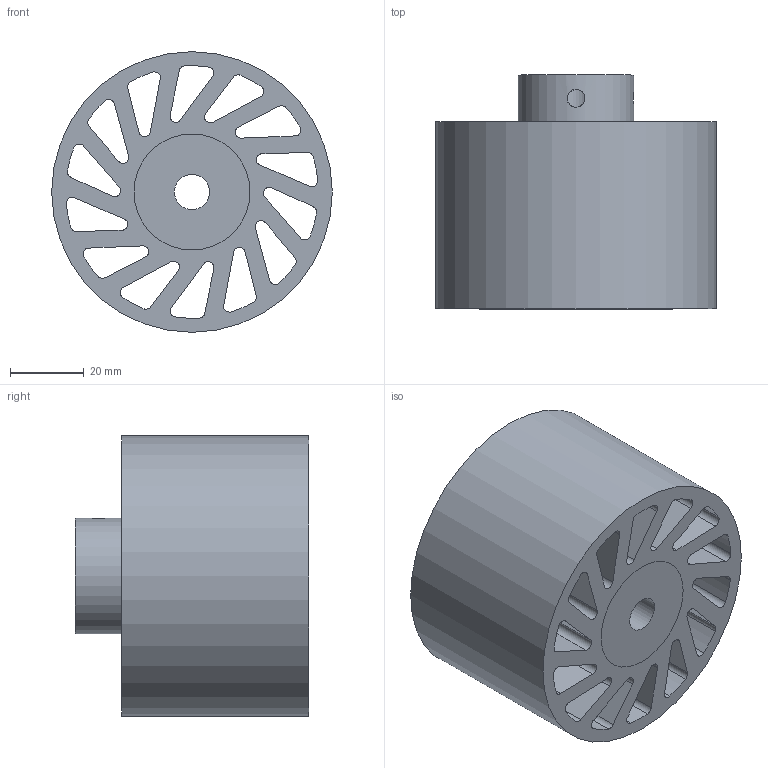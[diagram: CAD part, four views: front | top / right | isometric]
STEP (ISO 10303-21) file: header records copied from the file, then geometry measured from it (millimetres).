
FILE_DESCRIPTION(/* description */ (''),/* implementation_level */ '2;1');
FILE_NAME(/* name */ 'NCW-700-DUR-CLR.stp',/* time_stamp */ '2023-02-01T16:39:59-06:00',/* author */ ('AG'),/* organization */ ('Meridian Laboratory'),/* preprocessor_version */ 'ST-DEVELOPER v18.1',/* originating_system */ 'Autodesk Inventor 2022',/* authorisation */ '');
FILE_SCHEMA (('AUTOMOTIVE_DESIGN { 1 0 10303 214 3 1 1 }'));
Length unit declared in the file: inch
Products named in the file (1): NCW-640-DUR-CLR
Bounding box: 76.2 x 63.5 x 76.2 mm (x, y, z)
Volume: 165947.8 mm3; surface area: 62585.4 mm2
Topology: 2 solids, 2 shells, 94 faces, 274 edges, 184 vertices
Faces by surface type: cylinder 62, plane 32
Full cylindrical faces by diameter (mm): 4.826 x2, 9.538 x1, 31.496 x2, 76.2 x1
Entity records: 3512 total; most frequent: CARTESIAN_POINT 689, DIRECTION 576, ORIENTED_EDGE 548, EDGE_CURVE 274, AXIS2_PLACEMENT_3D 215, VERTEX_POINT 184, LINE 146, VECTOR 146
